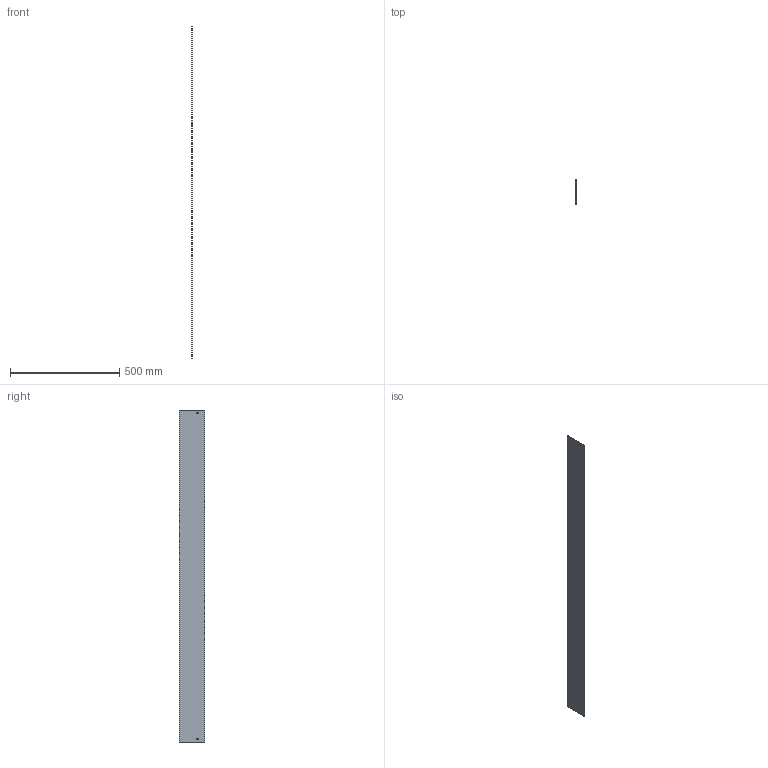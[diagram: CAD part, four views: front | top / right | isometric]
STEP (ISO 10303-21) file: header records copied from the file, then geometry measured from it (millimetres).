
FILE_DESCRIPTION((''),'1');
FILE_NAME('2','2001-04-18T',('jlue'),(''),'PRO/ENGINEER BY PARAMETRIC TECHNOLOGY CORPORATION, 9846','PRO/ENGINEER BY PARAMETRIC TECHNOLOGY CORPORATION, 9846','');
FILE_SCHEMA(('CONFIG_CONTROL_DESIGN'));
Length unit declared in the file: inch
Products named in the file (1): 2
Bounding box: 1.91 x 114.3 x 1517.65 mm (x, y, z)
Surface area: 353101.8 mm2 (no closed solid volume)
Topology: 0 solids, 0 shells, 10 faces, 50 edges, 52 vertices
Faces by surface type: plane 6, cylinder 4
Entity records: 306 total; most frequent: DIRECTION 54, COMPOSITE_CURVE_SEGMENT 48, CARTESIAN_POINT 36, TRIMMED_CURVE 26, AXIS2_PLACEMENT_3D 18, VECTOR 18, LINE 18, CURVE_BOUNDED_SURFACE 10
